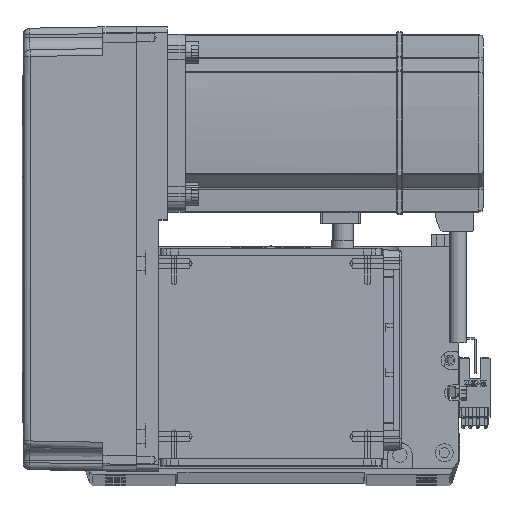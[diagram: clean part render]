
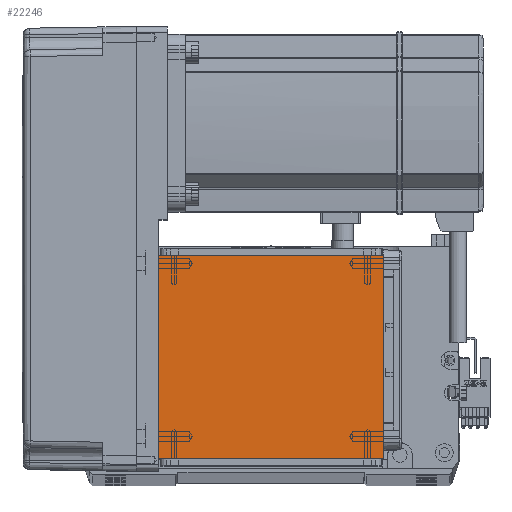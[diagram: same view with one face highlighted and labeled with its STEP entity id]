
A CAD part, top view. The second image highlights one B-rep face of the part: STEP entity #22246.
In plain terms, the highlighted planar face has unit normal (0, 0, 1).
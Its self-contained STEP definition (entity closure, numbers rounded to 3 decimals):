
#420 = VERTEX_POINT ( 'NONE', #45066 ) ;
#1491 = LINE ( 'NONE', #33014, #42264 ) ;
#2193 = DIRECTION ( 'NONE',  ( 0., 0., 1. ) ) ;
#2545 = LINE ( 'NONE', #58307, #4851 ) ;
#3571 = VERTEX_POINT ( 'NONE', #25579 ) ;
#4617 = EDGE_CURVE ( 'NONE', #27400, #10697, #1491, .T. ) ;
#4746 = CARTESIAN_POINT ( 'NONE',  ( -50.5, 111.5, 115. ) ) ;
#4851 = VECTOR ( 'NONE', #8229, 1000. ) ;
#6332 = ORIENTED_EDGE ( 'NONE', *, *, #31773, .T. ) ;
#8229 = DIRECTION ( 'NONE',  ( 0., 1., 0. ) ) ;
#10197 = DIRECTION ( 'NONE',  ( -1., 0., 0. ) ) ;
#10697 = VERTEX_POINT ( 'NONE', #12589 ) ;
#11773 = DIRECTION ( 'NONE',  ( 1., 0., 0. ) ) ;
#12589 = CARTESIAN_POINT ( 'NONE',  ( 50.5, 111.5, 115. ) ) ;
#15213 = ORIENTED_EDGE ( 'NONE', *, *, #4617, .F. ) ;
#16790 = CARTESIAN_POINT ( 'NONE',  ( 0., 0., 115. ) ) ;
#16989 = ORIENTED_EDGE ( 'NONE', *, *, #40571, .T. ) ;
#17011 = PLANE ( 'NONE',  #47769 ) ;
#17132 = VECTOR ( 'NONE', #49212, 1000. ) ;
#17325 = FACE_OUTER_BOUND ( 'NONE', #56794, .T. ) ;
#22246 = ADVANCED_FACE ( 'NONE', ( #17325 ), #17011, .T. ) ;
#23017 = VECTOR ( 'NONE', #10197, 1000. ) ;
#23586 = DIRECTION ( 'NONE',  ( 1., 0., 0. ) ) ;
#25579 = CARTESIAN_POINT ( 'NONE',  ( 50.5, 20., 115. ) ) ;
#27400 = VERTEX_POINT ( 'NONE', #4746 ) ;
#30488 = LINE ( 'NONE', #38628, #17132 ) ;
#31773 = EDGE_CURVE ( 'NONE', #3571, #10697, #2545, .T. ) ;
#33014 = CARTESIAN_POINT ( 'NONE',  ( -70.004, 111.5, 115. ) ) ;
#34861 = LINE ( 'NONE', #64672, #23017 ) ;
#38628 = CARTESIAN_POINT ( 'NONE',  ( -50.5, 122., 115. ) ) ;
#39725 = ORIENTED_EDGE ( 'NONE', *, *, #58729, .F. ) ;
#40571 = EDGE_CURVE ( 'NONE', #27400, #420, #30488, .T. ) ;
#42264 = VECTOR ( 'NONE', #23586, 1000. ) ;
#45066 = CARTESIAN_POINT ( 'NONE',  ( -50.5, 20., 115. ) ) ;
#47769 = AXIS2_PLACEMENT_3D ( 'NONE', #16790, #2193, #11773 ) ;
#49212 = DIRECTION ( 'NONE',  ( 0., -1., 0. ) ) ;
#56794 = EDGE_LOOP ( 'NONE', ( #15213, #16989, #39725, #6332 ) ) ;
#58307 = CARTESIAN_POINT ( 'NONE',  ( 50.5, 122., 115. ) ) ;
#58729 = EDGE_CURVE ( 'NONE', #3571, #420, #34861, .T. ) ;
#64672 = CARTESIAN_POINT ( 'NONE',  ( -70.004, 20., 115. ) ) ;
